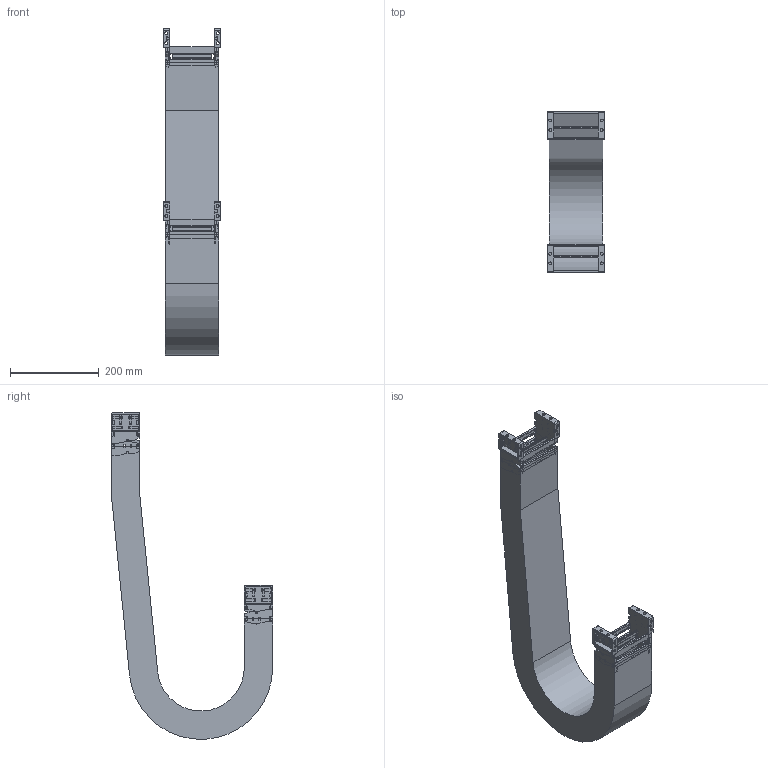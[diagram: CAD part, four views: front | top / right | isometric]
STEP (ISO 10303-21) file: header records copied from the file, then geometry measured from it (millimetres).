
FILE_DESCRIPTION((''),'2;1');
FILE_NAME('KST-50100-125_ASM','2017-12-08T',('KUNI004K'),(''),'PRO/ENGINEER BY PARAMETRIC TECHNOLOGY CORPORATION, 2015200','PRO/ENGINEER BY PARAMETRIC TECHNOLOGY CORPORATION, 2015200','');
FILE_SCHEMA(('AUTOMOTIVE_DESIGN { 1 0 10303 214 1 1 1 1 }'));
Length unit declared in the file: millimetre
Products named in the file (13): 50FBR; 50FBL; 40100C; KST50FB_W100_ASM; KST50125R; KST50125L; 40100H; KST50100-125_1_ASM; KST50100_R125_BODY; 50MBR; 50MBL; KST50MB_W100_ASM; KST-50100-125_ASM
Assembly tree (19 placements, depth 3):
  KST-50100-125_ASM
    KST50FB_W100_ASM
      50FBR
      50FBL
      40100C  x2
    KST50100-125_1_ASM  x2
      KST50125R
      KST50125L
      40100C
      40100H
    KST50100_R125_BODY
    KST50MB_W100_ASM
      50MBR
      50MBL
      40100C  x2
Bounding box: 128 x 364 x 737.35 mm (x, y, z)
Volume: 2930078.7 mm3; surface area: 1042782.4 mm2
Topology: 21 solids, 21 shells, 2840 faces, 7758 edges, 4988 vertices
Faces by surface type: plane 1478, cylinder 986, bspline 308, torus 68
Entity records: 69134 total; most frequent: CARTESIAN_POINT 14029, ORIENTED_EDGE 7400, DIRECTION 6706, PRESENTATION_STYLE_ASSIGNMENT 5048, STYLED_ITEM 5048, CURVE_STYLE 3700, EDGE_CURVE 3700, VERTEX_POINT 2392
